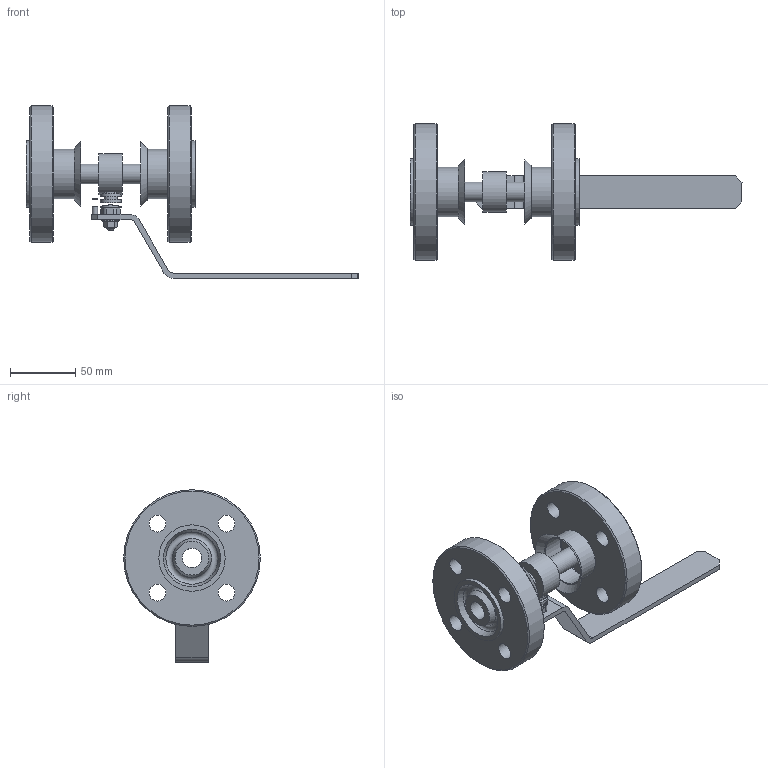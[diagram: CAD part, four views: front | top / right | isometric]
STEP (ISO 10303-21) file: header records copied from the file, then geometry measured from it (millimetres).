
FILE_DESCRIPTION(('STEP AP203'), '1');
FILE_NAME('ZARDP 015.100.27.P.stp', '2013-12-05T09:08:31', ('User'), ('Computer'), 'ASCON STEP Converter 1.3', 'Kompas 3D', '');
FILE_SCHEMA(('CONFIG_CONTROL_DESIGN','SUPPORT_RESOURCE_SCHEMA'));
Length unit declared in the file: millimetre
Products named in the file (1): 73
Bounding box: 255 x 105 x 132.5 mm (x, y, z)
Surface area: 86135.3 mm2
Topology: 5 solids, 6 shells, 166 faces, 376 edges, 232 vertices
Faces by surface type: plane 87, cylinder 46, cone 30, torus 2, bspline 1
Full cylindrical faces by diameter (mm): 4 x2, 6 x2, 8.673 x1, 9 x1, 10 x1, 10.1 x1, 13 x8, 14.2 x1, 15 x2, 15.8 x1, 16 x3, 31.4 x1, 38 x4, 50 x1, 51 x2, 105 x2
Entity records: 6419 total; most frequent: CARTESIAN_POINT 2487, DIRECTION 841, ORIENTED_EDGE 747, EDGE_CURVE 375, AXIS2_PLACEMENT_3D 328, VERTEX_POINT 232, EDGE_LOOP 211, LINE 185
